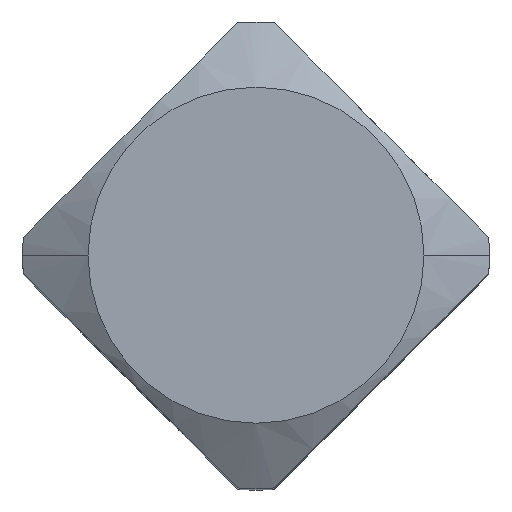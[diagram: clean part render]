
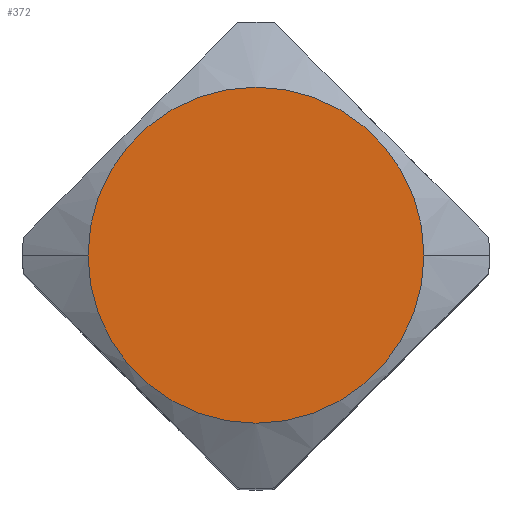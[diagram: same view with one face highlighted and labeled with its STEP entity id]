
A CAD part, top view. The second image highlights one B-rep face of the part: STEP entity #372.
In plain terms, the highlighted planar face has unit normal (0, 0, 1).
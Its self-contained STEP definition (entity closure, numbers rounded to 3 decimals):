
#18 = DIRECTION ( 'NONE',  ( 0., 0., -1. ) ) ;
#26 = DIRECTION ( 'NONE',  ( 0., 0., -1. ) ) ;
#36 = CARTESIAN_POINT ( 'NONE',  ( -4.5, 0., 24. ) ) ;
#39 = DIRECTION ( 'NONE',  ( -1., 0., 0. ) ) ;
#111 = CARTESIAN_POINT ( 'NONE',  ( 0., 0., 24. ) ) ;
#143 = CARTESIAN_POINT ( 'NONE',  ( 4.5, 0., 24. ) ) ;
#160 = CARTESIAN_POINT ( 'NONE',  ( 0., 0., 24. ) ) ;
#218 = PLANE ( 'NONE',  #648 ) ;
#219 = DIRECTION ( 'NONE',  ( 1., 0., 0. ) ) ;
#223 = DIRECTION ( 'NONE',  ( 0., 0., 1. ) ) ;
#277 = CARTESIAN_POINT ( 'NONE',  ( 0., 0., 24. ) ) ;
#298 = DIRECTION ( 'NONE',  ( -1., 0., 0. ) ) ;
#317 = EDGE_CURVE ( 'NONE', #414, #435, #626, .T. ) ;
#350 = EDGE_CURVE ( 'NONE', #435, #414, #686, .T. ) ;
#372 = ADVANCED_FACE ( 'NONE', ( #463 ), #218, .T. ) ;
#397 = EDGE_LOOP ( 'NONE', ( #587, #586 ) ) ;
#414 = VERTEX_POINT ( 'NONE', #36 ) ;
#435 = VERTEX_POINT ( 'NONE', #143 ) ;
#463 = FACE_OUTER_BOUND ( 'NONE', #397, .T. ) ;
#586 = ORIENTED_EDGE ( 'NONE', *, *, #350, .F. ) ;
#587 = ORIENTED_EDGE ( 'NONE', *, *, #317, .F. ) ;
#625 = AXIS2_PLACEMENT_3D ( 'NONE', #111, #26, #298 ) ;
#626 = CIRCLE ( 'NONE', #625, 4.5 ) ;
#648 = AXIS2_PLACEMENT_3D ( 'NONE', #160, #223, #219 ) ;
#680 = AXIS2_PLACEMENT_3D ( 'NONE', #277, #18, #39 ) ;
#686 = CIRCLE ( 'NONE', #680, 4.5 ) ;
